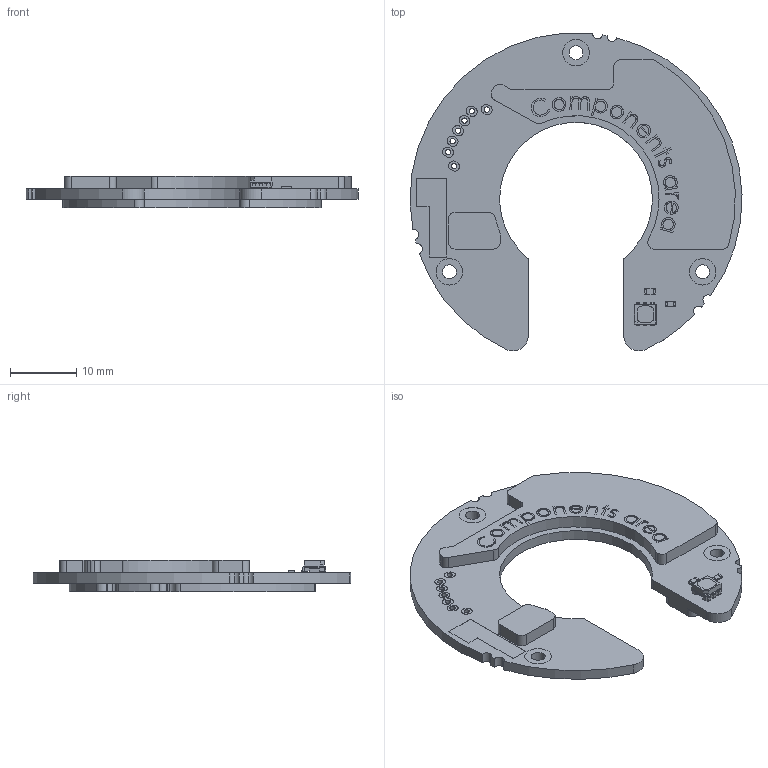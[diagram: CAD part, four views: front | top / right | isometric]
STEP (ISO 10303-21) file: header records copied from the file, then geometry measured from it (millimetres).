
FILE_DESCRIPTION (( 'STEP AP214' ), '1' );
FILE_NAME ('Orbis_fi22_v03_brez_konektorja_pokrov.step', '2024-01-23T06:49:34', ( '' ), ( '' ), 'SwSTEP 2.0', 'SolidWorks 2022', '' );
FILE_SCHEMA (( 'AUTOMOTIVE_DESIGN' ));
Length unit declared in the file: millimetre
Products named in the file (1): Orbis_fi22_v03_brez_konektorja_pokrov
Bounding box: 49.99 x 47.85 x 4.75 mm (x, y, z)
Volume: 3612 mm3; surface area: 3646.5 mm2
Topology: 4 solids, 4 shells, 904 faces, 2493 edges, 1654 vertices
Faces by surface type: plane 442, bspline 249, cylinder 213
Entity records: 49754 total; most frequent: CARTESIAN_POINT 17937, ORIENTED_EDGE 4986, DIRECTION 3729, EDGE_CURVE 2493, VERTEX_POINT 1654, LINE 1565, VECTOR 1565, AXIS2_PLACEMENT_3D 1082
